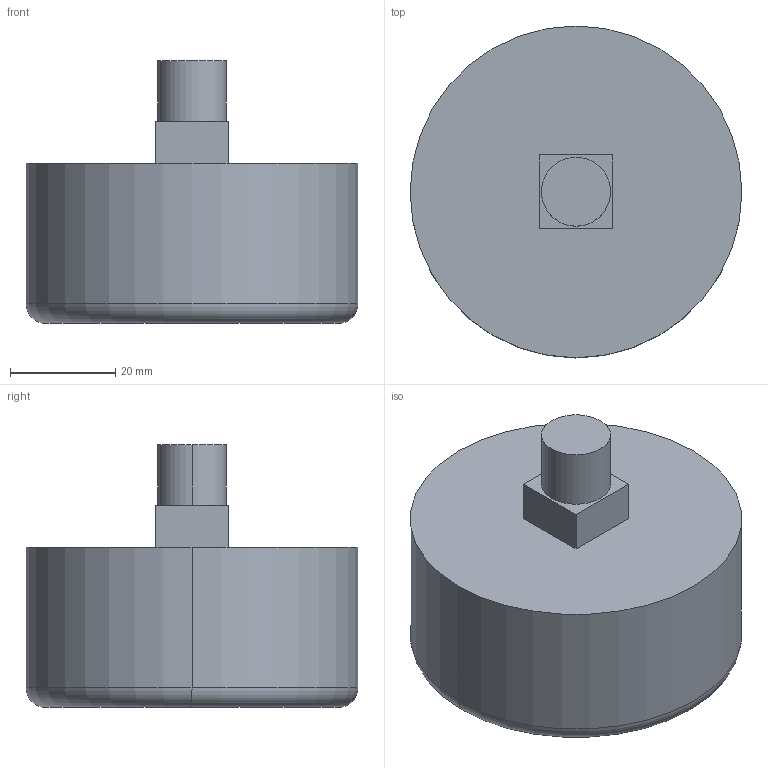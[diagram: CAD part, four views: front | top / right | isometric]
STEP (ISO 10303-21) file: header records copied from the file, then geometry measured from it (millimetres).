
FILE_DESCRIPTION (( 'STEP AP214' ), '1' );
FILE_NAME ('Manometr_grzewczy_hydrometr_x_0_3D_AFRISO.STEP', '2022-12-08T11:57:20', ( '' ), ( '' ), 'SwSTEP 2.0', 'SolidWorks 2022', '' );
FILE_SCHEMA (( 'AUTOMOTIVE_DESIGN' ));
Length unit declared in the file: millimetre
Products named in the file (1): Manometr_grzewczy_hydrometr_x_0_3D_AFRISO
Bounding box: 63 x 63 x 49.9 mm (x, y, z)
Volume: 97316 mm3; surface area: 12852.2 mm2
Topology: 1 solids, 1 shells, 14 faces, 28 edges, 18 vertices
Faces by surface type: plane 8, cylinder 4, torus 2
Entity records: 402 total; most frequent: DIRECTION 70, CARTESIAN_POINT 61, ORIENTED_EDGE 56, EDGE_CURVE 28, AXIS2_PLACEMENT_3D 27, VERTEX_POINT 18, VECTOR 16, LINE 16
